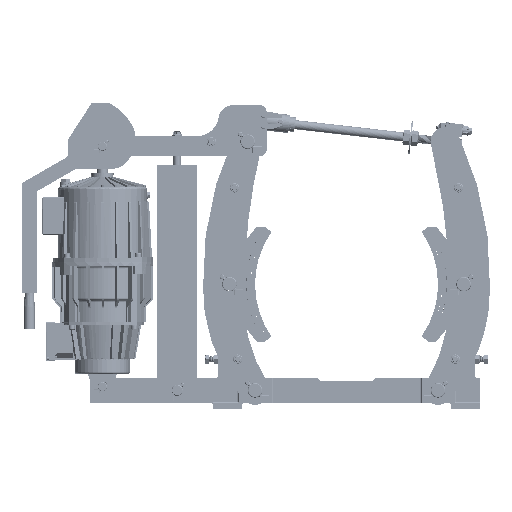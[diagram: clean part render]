
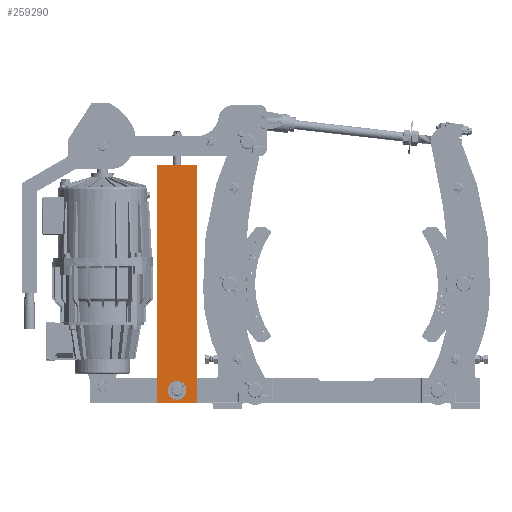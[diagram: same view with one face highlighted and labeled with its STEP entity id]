
A CAD part, left-side view. The second image highlights one B-rep face of the part: STEP entity #259290.
In plain terms, the highlighted planar face has unit normal (-1, 0, 0).
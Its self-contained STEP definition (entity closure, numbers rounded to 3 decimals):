
#259121=DIRECTION('',(0.,-1.,0.));
#259122=VECTOR('',#259121,110.);
#259123=CARTESIAN_POINT('',(-145.,883.002,665.));
#259124=LINE('',#259123,#259122);
#259128=DIRECTION('',(0.,0.,-1.));
#259129=VECTOR('',#259128,650.);
#259130=CARTESIAN_POINT('',(-145.,773.002,665.));
#259131=LINE('',#259130,#259129);
#259135=DIRECTION('',(0.,1.,0.));
#259136=VECTOR('',#259135,110.);
#259137=CARTESIAN_POINT('',(-145.,773.002,15.));
#259138=LINE('',#259137,#259136);
#259142=DIRECTION('',(0.,0.,1.));
#259143=VECTOR('',#259142,650.);
#259144=CARTESIAN_POINT('',(-145.,883.002,15.));
#259145=LINE('',#259144,#259143);
#259149=CARTESIAN_POINT('',(-145.,813.002,50.));
#259150=CARTESIAN_POINT('',(-145.,813.002,50.414));
#259151=CARTESIAN_POINT('',(-145.,813.036,51.24));
#259152=CARTESIAN_POINT('',(-145.,813.19,52.473));
#259153=CARTESIAN_POINT('',(-145.,813.445,53.688));
#259154=CARTESIAN_POINT('',(-145.,813.798,54.876));
#259155=CARTESIAN_POINT('',(-145.,814.251,56.035));
#259156=CARTESIAN_POINT('',(-145.,814.797,57.151));
#259157=CARTESIAN_POINT('',(-145.,815.433,58.218));
#259158=CARTESIAN_POINT('',(-145.,816.154,59.228));
#259159=CARTESIAN_POINT('',(-145.,816.957,60.174));
#259160=CARTESIAN_POINT('',(-145.,817.834,61.051));
#259161=CARTESIAN_POINT('',(-145.,818.781,61.853));
#259162=CARTESIAN_POINT('',(-145.,819.79,62.573));
#259163=CARTESIAN_POINT('',(-145.,820.856,63.208));
#259164=CARTESIAN_POINT('',(-145.,821.971,63.753));
#259165=CARTESIAN_POINT('',(-145.,823.128,64.204));
#259166=CARTESIAN_POINT('',(-145.,824.315,64.557));
#259167=CARTESIAN_POINT('',(-145.,825.529,64.812));
#259168=CARTESIAN_POINT('',(-145.,826.761,64.966));
#259169=CARTESIAN_POINT('',(-145.,827.587,65.));
#259170=CARTESIAN_POINT('',(-145.,828.002,65.));
#259175=CARTESIAN_POINT('',(-145.,828.002,65.));
#259176=CARTESIAN_POINT('',(-145.,828.416,65.));
#259177=CARTESIAN_POINT('',(-145.,829.242,64.966));
#259178=CARTESIAN_POINT('',(-145.,830.474,64.812));
#259179=CARTESIAN_POINT('',(-145.,831.689,64.557));
#259180=CARTESIAN_POINT('',(-145.,832.878,64.203));
#259181=CARTESIAN_POINT('',(-145.,834.036,63.751));
#259182=CARTESIAN_POINT('',(-145.,835.153,63.205));
#259183=CARTESIAN_POINT('',(-145.,836.219,62.569));
#259184=CARTESIAN_POINT('',(-145.,837.23,61.847));
#259185=CARTESIAN_POINT('',(-145.,838.176,61.045));
#259186=CARTESIAN_POINT('',(-145.,839.053,60.168));
#259187=CARTESIAN_POINT('',(-145.,839.855,59.221));
#259188=CARTESIAN_POINT('',(-145.,840.575,58.211));
#259189=CARTESIAN_POINT('',(-145.,841.21,57.145));
#259190=CARTESIAN_POINT('',(-145.,841.755,56.031));
#259191=CARTESIAN_POINT('',(-145.,842.206,54.874));
#259192=CARTESIAN_POINT('',(-145.,842.559,53.687));
#259193=CARTESIAN_POINT('',(-145.,842.814,52.473));
#259194=CARTESIAN_POINT('',(-145.,842.968,51.241));
#259195=CARTESIAN_POINT('',(-145.,843.002,50.415));
#259196=CARTESIAN_POINT('',(-145.,843.002,50.));
#259201=CARTESIAN_POINT('',(-145.,843.002,50.));
#259202=CARTESIAN_POINT('',(-145.,843.002,49.586));
#259203=CARTESIAN_POINT('',(-145.,842.968,48.76));
#259204=CARTESIAN_POINT('',(-145.,842.814,47.527));
#259205=CARTESIAN_POINT('',(-145.,842.559,46.312));
#259206=CARTESIAN_POINT('',(-145.,842.205,45.124));
#259207=CARTESIAN_POINT('',(-145.,841.753,43.965));
#259208=CARTESIAN_POINT('',(-145.,841.207,42.849));
#259209=CARTESIAN_POINT('',(-145.,840.571,41.782));
#259210=CARTESIAN_POINT('',(-145.,839.849,40.772));
#259211=CARTESIAN_POINT('',(-145.,839.047,39.826));
#259212=CARTESIAN_POINT('',(-145.,838.17,38.949));
#259213=CARTESIAN_POINT('',(-145.,837.223,38.147));
#259214=CARTESIAN_POINT('',(-145.,836.213,37.427));
#259215=CARTESIAN_POINT('',(-145.,835.147,36.792));
#259216=CARTESIAN_POINT('',(-145.,834.032,36.247));
#259217=CARTESIAN_POINT('',(-145.,832.875,35.796));
#259218=CARTESIAN_POINT('',(-145.,831.688,35.443));
#259219=CARTESIAN_POINT('',(-145.,830.475,35.188));
#259220=CARTESIAN_POINT('',(-145.,829.243,35.034));
#259221=CARTESIAN_POINT('',(-145.,828.417,35.));
#259222=CARTESIAN_POINT('',(-145.,828.002,35.));
#259227=CARTESIAN_POINT('',(-145.,828.002,35.));
#259228=CARTESIAN_POINT('',(-145.,827.587,35.));
#259229=CARTESIAN_POINT('',(-145.,826.762,35.034));
#259230=CARTESIAN_POINT('',(-145.,825.529,35.188));
#259231=CARTESIAN_POINT('',(-145.,824.314,35.443));
#259232=CARTESIAN_POINT('',(-145.,823.126,35.797));
#259233=CARTESIAN_POINT('',(-145.,821.967,36.249));
#259234=CARTESIAN_POINT('',(-145.,820.851,36.795));
#259235=CARTESIAN_POINT('',(-145.,819.784,37.431));
#259236=CARTESIAN_POINT('',(-145.,818.774,38.153));
#259237=CARTESIAN_POINT('',(-145.,817.827,38.955));
#259238=CARTESIAN_POINT('',(-145.,816.951,39.832));
#259239=CARTESIAN_POINT('',(-145.,816.149,40.779));
#259240=CARTESIAN_POINT('',(-145.,815.429,41.789));
#259241=CARTESIAN_POINT('',(-145.,814.794,42.855));
#259242=CARTESIAN_POINT('',(-145.,814.249,43.969));
#259243=CARTESIAN_POINT('',(-145.,813.798,45.126));
#259244=CARTESIAN_POINT('',(-145.,813.444,46.313));
#259245=CARTESIAN_POINT('',(-145.,813.19,47.527));
#259246=CARTESIAN_POINT('',(-145.,813.036,48.759));
#259247=CARTESIAN_POINT('',(-145.,813.002,49.585));
#259248=CARTESIAN_POINT('',(-145.,813.002,50.));
#259253=CARTESIAN_POINT('',(-145.,883.002,665.));
#259254=CARTESIAN_POINT('',(-145.,773.002,665.));
#259255=VERTEX_POINT('',#259253);
#259256=VERTEX_POINT('',#259254);
#259257=CARTESIAN_POINT('',(-145.,773.002,15.));
#259258=VERTEX_POINT('',#259257);
#259259=CARTESIAN_POINT('',(-145.,883.002,15.));
#259260=VERTEX_POINT('',#259259);
#259261=VERTEX_POINT('',#259149);
#259262=VERTEX_POINT('',#259170);
#259263=VERTEX_POINT('',#259196);
#259264=VERTEX_POINT('',#259222);
#259265=CARTESIAN_POINT('',(-145.,828.002,340.));
#259266=DIRECTION('',(1.,0.,0.));
#259267=DIRECTION('',(0.,0.,1.));
#259268=AXIS2_PLACEMENT_3D('',#259265,#259266,#259267);
#259269=PLANE('',#259268);
#259271=ORIENTED_EDGE('',*,*,#259270,.T.);
#259273=ORIENTED_EDGE('',*,*,#259272,.T.);
#259275=ORIENTED_EDGE('',*,*,#259274,.T.);
#259277=ORIENTED_EDGE('',*,*,#259276,.T.);
#259278=EDGE_LOOP('',(#259271,#259273,#259275,#259277));
#259279=FACE_OUTER_BOUND('',#259278,.F.);
#259281=ORIENTED_EDGE('',*,*,#259280,.T.);
#259283=ORIENTED_EDGE('',*,*,#259282,.T.);
#259285=ORIENTED_EDGE('',*,*,#259284,.T.);
#259287=ORIENTED_EDGE('',*,*,#259286,.T.);
#259288=EDGE_LOOP('',(#259281,#259283,#259285,#259287));
#259289=FACE_BOUND('',#259288,.F.);
#259290=ADVANCED_FACE('',(#259279,#259289),#259269,.F.);
#259171=B_SPLINE_CURVE_WITH_KNOTS('',3,(#259149,#259150,#259151,#259152,#259153,
#259154,#259155,#259156,#259157,#259158,#259159,#259160,#259161,#259162,#259163,
#259164,#259165,#259166,#259167,#259168,#259169,#259170),.UNSPECIFIED.,.F.,.F.,(
4,1,1,1,1,1,1,1,1,1,1,1,1,1,1,1,1,1,1,4),(0.,0.053,
0.105,0.158,0.211,0.263,
0.316,0.368,0.421,0.474,
0.526,0.579,0.632,0.684,
0.737,0.789,0.842,0.895,
0.947,1.),.UNSPECIFIED.);
#259197=B_SPLINE_CURVE_WITH_KNOTS('',3,(#259175,#259176,#259177,#259178,#259179,
#259180,#259181,#259182,#259183,#259184,#259185,#259186,#259187,#259188,#259189,
#259190,#259191,#259192,#259193,#259194,#259195,#259196),.UNSPECIFIED.,.F.,.F.,(
4,1,1,1,1,1,1,1,1,1,1,1,1,1,1,1,1,1,1,4),(0.,0.053,
0.105,0.158,0.211,0.263,
0.316,0.368,0.421,0.474,
0.526,0.579,0.632,0.684,
0.737,0.789,0.842,0.895,
0.947,1.),.UNSPECIFIED.);
#259223=B_SPLINE_CURVE_WITH_KNOTS('',3,(#259201,#259202,#259203,#259204,#259205,
#259206,#259207,#259208,#259209,#259210,#259211,#259212,#259213,#259214,#259215,
#259216,#259217,#259218,#259219,#259220,#259221,#259222),.UNSPECIFIED.,.F.,.F.,(
4,1,1,1,1,1,1,1,1,1,1,1,1,1,1,1,1,1,1,4),(0.,0.053,
0.105,0.158,0.211,0.263,
0.316,0.368,0.421,0.474,
0.526,0.579,0.632,0.684,
0.737,0.789,0.842,0.895,
0.947,1.),.UNSPECIFIED.);
#259249=B_SPLINE_CURVE_WITH_KNOTS('',3,(#259227,#259228,#259229,#259230,#259231,
#259232,#259233,#259234,#259235,#259236,#259237,#259238,#259239,#259240,#259241,
#259242,#259243,#259244,#259245,#259246,#259247,#259248),.UNSPECIFIED.,.F.,.F.,(
4,1,1,1,1,1,1,1,1,1,1,1,1,1,1,1,1,1,1,4),(0.,0.053,
0.105,0.158,0.211,0.263,
0.316,0.368,0.421,0.474,
0.526,0.579,0.632,0.684,
0.737,0.789,0.842,0.895,
0.947,1.),.UNSPECIFIED.);
#259270=EDGE_CURVE('',#259255,#259256,#259124,.T.);
#259272=EDGE_CURVE('',#259256,#259258,#259131,.T.);
#259274=EDGE_CURVE('',#259258,#259260,#259138,.T.);
#259276=EDGE_CURVE('',#259260,#259255,#259145,.T.);
#259280=EDGE_CURVE('',#259261,#259262,#259171,.T.);
#259282=EDGE_CURVE('',#259262,#259263,#259197,.T.);
#259284=EDGE_CURVE('',#259263,#259264,#259223,.T.);
#259286=EDGE_CURVE('',#259264,#259261,#259249,.T.);
